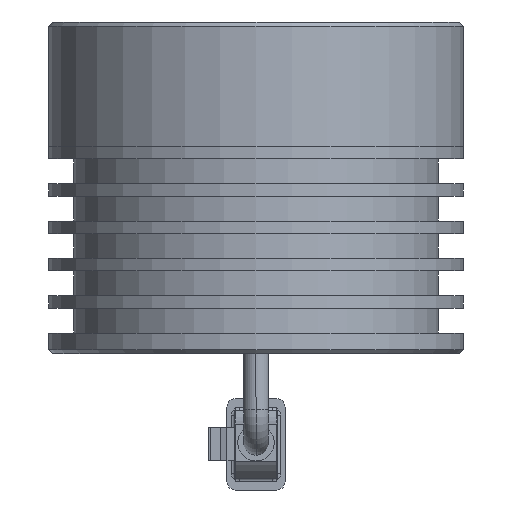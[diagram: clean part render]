
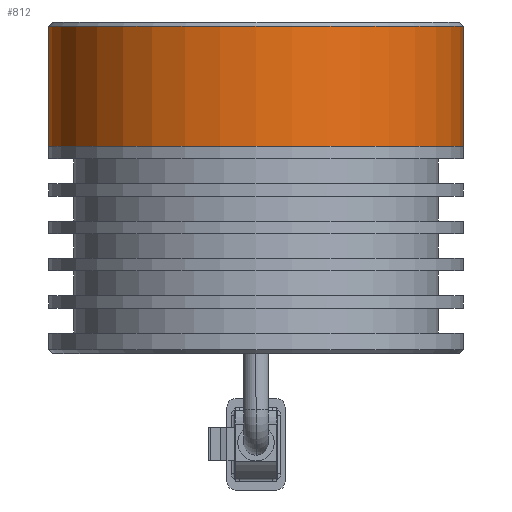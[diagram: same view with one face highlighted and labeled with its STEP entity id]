
A CAD part, front view. The second image highlights one B-rep face of the part: STEP entity #812.
In plain terms, the highlighted cylindrical face has radius 25 mm (diameter 50 mm), a partial arc.
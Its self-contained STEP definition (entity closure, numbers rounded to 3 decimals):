
#110 = DIRECTION ( 'NONE',  ( 1., 0., 0. ) ) ;
#691 = EDGE_CURVE ( 'NONE', #8537, #5632, #5946, .T. ) ;
#812 = ADVANCED_FACE ( 'NONE', ( #4945 ), #6972, .T. ) ;
#845 = CARTESIAN_POINT ( 'NONE',  ( 0., 0., 15. ) ) ;
#1083 = DIRECTION ( 'NONE',  ( 0., 0., 1. ) ) ;
#1410 = AXIS2_PLACEMENT_3D ( 'NONE', #845, #3569, #3609 ) ;
#1531 = CARTESIAN_POINT ( 'NONE',  ( 0., 0., 0. ) ) ;
#1814 = VERTEX_POINT ( 'NONE', #8048 ) ;
#2380 = CIRCLE ( 'NONE', #4392, 25. ) ;
#2897 = ORIENTED_EDGE ( 'NONE', *, *, #8703, .T. ) ;
#3178 = DIRECTION ( 'NONE',  ( 0., 0., -1. ) ) ;
#3227 = VECTOR ( 'NONE', #3178, 1000. ) ;
#3422 = CARTESIAN_POINT ( 'NONE',  ( -25., 0., 14.5 ) ) ;
#3509 = EDGE_CURVE ( 'NONE', #5632, #1814, #4968, .T. ) ;
#3569 = DIRECTION ( 'NONE',  ( 0., 0., -1. ) ) ;
#3609 = DIRECTION ( 'NONE',  ( -1., 0., 0. ) ) ;
#3679 = DIRECTION ( 'NONE',  ( 0., 0., -1. ) ) ;
#3787 = VERTEX_POINT ( 'NONE', #4176 ) ;
#3890 = VECTOR ( 'NONE', #3679, 1000. ) ;
#3977 = ORIENTED_EDGE ( 'NONE', *, *, #4919, .F. ) ;
#4176 = CARTESIAN_POINT ( 'NONE',  ( 25., 0., 0. ) ) ;
#4392 = AXIS2_PLACEMENT_3D ( 'NONE', #1531, #1083, #110 ) ;
#4675 = EDGE_LOOP ( 'NONE', ( #3977, #6568, #6218, #2897 ) ) ;
#4919 = EDGE_CURVE ( 'NONE', #8537, #3787, #5856, .T. ) ;
#4945 = FACE_OUTER_BOUND ( 'NONE', #4675, .T. ) ;
#4968 = LINE ( 'NONE', #5007, #3890 ) ;
#5007 = CARTESIAN_POINT ( 'NONE',  ( -25., 0., 15. ) ) ;
#5121 = CARTESIAN_POINT ( 'NONE',  ( 25., 0., 14.5 ) ) ;
#5632 = VERTEX_POINT ( 'NONE', #3422 ) ;
#5856 = LINE ( 'NONE', #7785, #3227 ) ;
#5946 = CIRCLE ( 'NONE', #8388, 25. ) ;
#6218 = ORIENTED_EDGE ( 'NONE', *, *, #3509, .T. ) ;
#6568 = ORIENTED_EDGE ( 'NONE', *, *, #691, .T. ) ;
#6847 = DIRECTION ( 'NONE',  ( 0., 0., -1. ) ) ;
#6972 = CYLINDRICAL_SURFACE ( 'NONE', #1410, 25. ) ;
#7559 = CARTESIAN_POINT ( 'NONE',  ( 0., 0., 14.5 ) ) ;
#7785 = CARTESIAN_POINT ( 'NONE',  ( 25., 0., 15. ) ) ;
#8048 = CARTESIAN_POINT ( 'NONE',  ( -25., 0., 0. ) ) ;
#8113 = DIRECTION ( 'NONE',  ( 1., 0., 0. ) ) ;
#8388 = AXIS2_PLACEMENT_3D ( 'NONE', #7559, #6847, #8113 ) ;
#8537 = VERTEX_POINT ( 'NONE', #5121 ) ;
#8703 = EDGE_CURVE ( 'NONE', #1814, #3787, #2380, .T. ) ;
